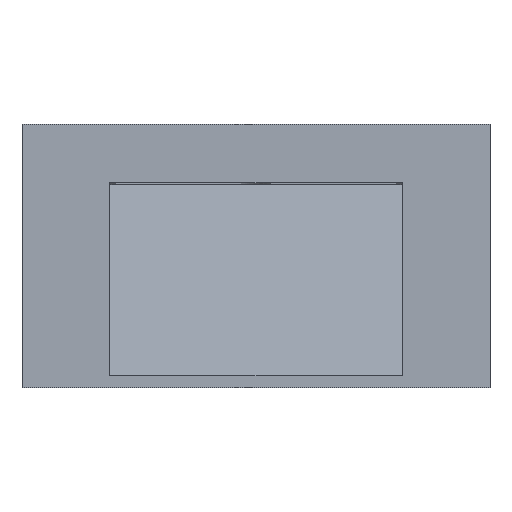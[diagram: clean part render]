
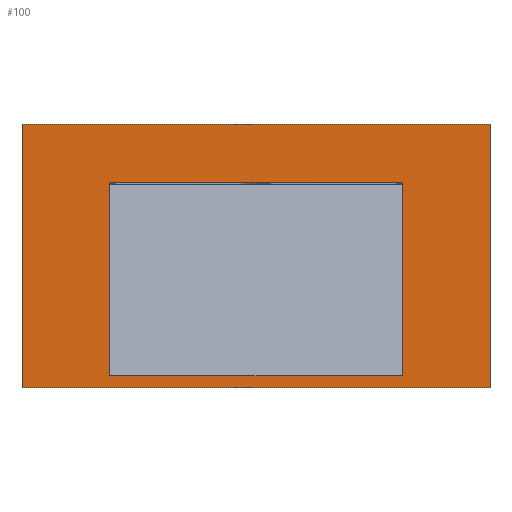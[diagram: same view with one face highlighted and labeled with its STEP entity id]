
A CAD part, top view. The second image highlights one B-rep face of the part: STEP entity #100.
In plain terms, the highlighted planar face has unit normal (0, 0, 1).
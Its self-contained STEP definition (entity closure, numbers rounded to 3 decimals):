
#47=FACE_BOUND('',#223,.T.);
#48=FACE_BOUND('',#224,.T.);
#100=ADVANCED_FACE('',(#47,#48),#145,.F.);
#145=PLANE('',#883);
#223=EDGE_LOOP('',(#365,#366,#367,#368));
#224=EDGE_LOOP('',(#369,#370,#371,#372));
#365=ORIENTED_EDGE('',*,*,#608,.F.);
#366=ORIENTED_EDGE('',*,*,#645,.F.);
#367=ORIENTED_EDGE('',*,*,#643,.T.);
#368=ORIENTED_EDGE('',*,*,#646,.T.);
#369=ORIENTED_EDGE('',*,*,#647,.T.);
#370=ORIENTED_EDGE('',*,*,#606,.T.);
#371=ORIENTED_EDGE('',*,*,#581,.F.);
#372=ORIENTED_EDGE('',*,*,#648,.F.);
#503=VERTEX_POINT('',#1197);
#504=VERTEX_POINT('',#1199);
#524=VERTEX_POINT('',#1248);
#525=VERTEX_POINT('',#1252);
#526=VERTEX_POINT('',#1253);
#548=VERTEX_POINT('',#1350);
#549=VERTEX_POINT('',#1352);
#550=VERTEX_POINT('',#1358);
#581=EDGE_CURVE('',#503,#504,#691,.T.);
#606=EDGE_CURVE('',#524,#504,#712,.T.);
#608=EDGE_CURVE('',#525,#526,#714,.T.);
#643=EDGE_CURVE('',#549,#548,#740,.T.);
#645=EDGE_CURVE('',#549,#525,#742,.T.);
#646=EDGE_CURVE('',#548,#526,#743,.T.);
#647=EDGE_CURVE('',#550,#524,#744,.T.);
#648=EDGE_CURVE('',#550,#503,#745,.T.);
#691=LINE('',#1198,#783);
#712=LINE('',#1247,#804);
#714=LINE('',#1251,#806);
#740=LINE('',#1351,#832);
#742=LINE('',#1355,#834);
#743=LINE('',#1356,#835);
#744=LINE('',#1357,#836);
#745=LINE('',#1359,#837);
#783=VECTOR('',#947,1.);
#804=VECTOR('',#984,1.);
#806=VECTOR('',#988,1.);
#832=VECTOR('',#1042,1.);
#834=VECTOR('',#1046,1.);
#835=VECTOR('',#1047,1.);
#836=VECTOR('',#1048,1.);
#837=VECTOR('',#1049,1.);
#883=AXIS2_PLACEMENT_3D('',#1360,#1050,#1051);
#947=DIRECTION('',(0.,-1.,0.));
#984=DIRECTION('',(-1.,0.,0.));
#988=DIRECTION('',(-1.,0.,0.));
#1042=DIRECTION('',(-1.,0.,0.));
#1046=DIRECTION('',(0.,-1.,0.));
#1047=DIRECTION('',(0.,-1.,0.));
#1048=DIRECTION('',(0.,-1.,0.));
#1049=DIRECTION('',(-1.,0.,0.));
#1050=DIRECTION('',(0.,0.,-1.));
#1051=DIRECTION('',(-1.,0.,0.));
#1197=CARTESIAN_POINT('',(-250.,28.,0.));
#1198=CARTESIAN_POINT('',(-250.,128.,0.));
#1199=CARTESIAN_POINT('',(-250.,-302.,0.));
#1247=CARTESIAN_POINT('',(250.,-302.,0.));
#1248=CARTESIAN_POINT('',(250.,-302.,0.));
#1251=CARTESIAN_POINT('',(250.,-322.,0.));
#1252=CARTESIAN_POINT('',(400.,-322.,0.));
#1253=CARTESIAN_POINT('',(-400.,-322.,0.));
#1350=CARTESIAN_POINT('',(-400.,128.,0.));
#1351=CARTESIAN_POINT('',(250.,128.,0.));
#1352=CARTESIAN_POINT('',(400.,128.,0.));
#1355=CARTESIAN_POINT('',(400.,128.,0.));
#1356=CARTESIAN_POINT('',(-400.,128.,0.));
#1357=CARTESIAN_POINT('',(250.,128.,0.));
#1358=CARTESIAN_POINT('',(250.,28.,0.));
#1359=CARTESIAN_POINT('',(250.,28.,0.));
#1360=CARTESIAN_POINT('',(250.,128.,0.));
